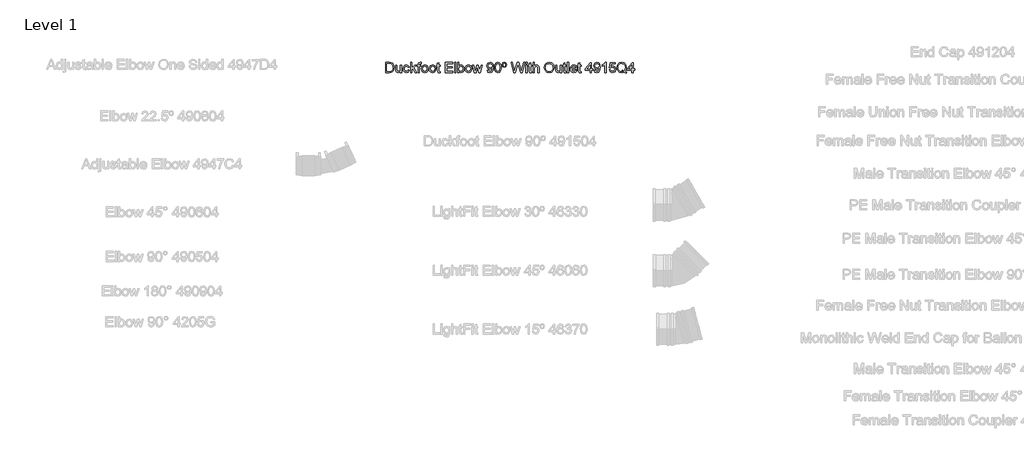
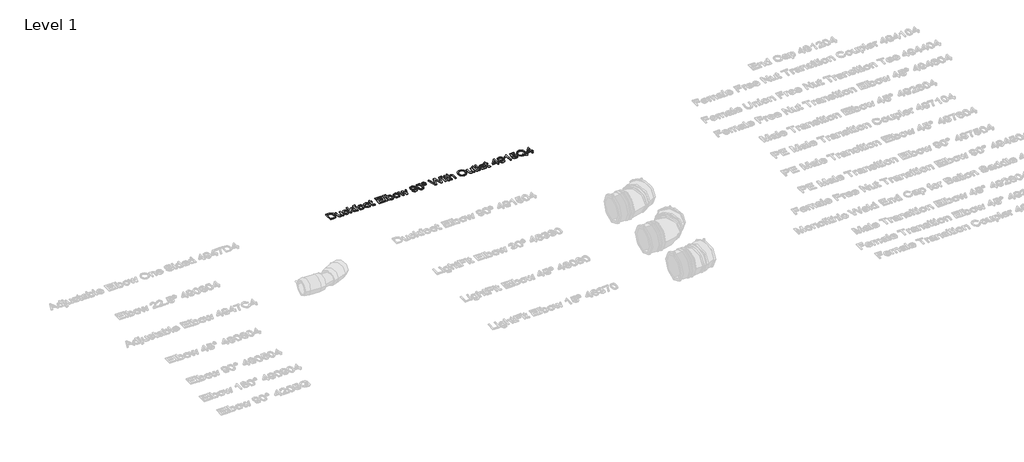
# One storey, part 20 of 41: 1 proxy.
"""IFC4 building model written with IfcOpenShell, lengths in millimetres."""

from ifc_helpers import new_model, si_unit, origin, origin_with_axes, place, context, project, spatial, polyline, outline, extrude, element, save

model = new_model("IFC4")

# Units and contexts
model_context = context("Model", 3, world=origin())
ifc_project = project(units=[si_unit("LENGTHUNIT", "METRE", prefix="MILLI")], contexts=[model_context])

# Site, building, storey
site = spatial("IfcSite", under=ifc_project)
building = spatial("IfcBuilding", under=site)
storey = spatial("IfcBuildingStorey", under=building, Name="Level 1", Elevation=0.0)

# Proxy
placement = place(None, origin())
element("IfcBuildingElementProxy", 1, Name="100 mm Arial", ObjectType="100 mm Arial", at=placement, inside=storey, context=model_context, shape_type="SweptSolid", body=[
    extrude(outline(polyline([(12963.4586957, 4990.1262933), (12963.4586957, 5049.2032164), (12983.8385034, 5049.2032164), (12994.3817727, 5048.3522548), (13003.064465, 5044.1262933), (13010.0596573, 5034.0301394), (13012.3817727, 5019.9820625), (13010.8096573, 5008.0613894), (13006.7711957, 4999.4580241), (13001.376965, 4994.099851), (12994.3168688, 4991.1359087), (12984.8192727, 4990.1262933), (12963.4586957, 4990.1262933)]), holes=[polyline([(12970.8433111, 4997.5109087), (12983.9106188, 4997.5109087), (12993.4154265, 4998.5782164), (12998.8961957, 5001.5926394), (13003.3889842, 5008.9267741), (13004.9971573, 5020.0974471), (13001.845715, 5034.0878318), (12994.1798496, 5040.6359087), (12983.7086957, 5041.818601), (12970.8433111, 5041.818601), (12970.8433111, 4997.5109087)])]), origin_with_axes(), (0.0, 0.0, 1.0), 5.0),
    extrude(outline(polyline([(13049.3048496, 4990.1262933), (13049.3048496, 4997.5830241), (13043.5211957, 4991.2981683), (13035.9779265, 4989.2032164), (13029.033215, 4990.6743702), (13024.2447534, 4994.3666779), (13022.0452342, 4999.8041779), (13021.6125419, 5006.6695625), (13021.6125419, 5033.5109087), (13028.9971573, 5033.5109087), (13028.9971573, 5010.1455241), (13029.4442727, 5002.6166779), (13032.3649457, 4998.1960048), (13037.8673496, 4996.5878318), (13044.033215, 4998.2320625), (13048.1077342, 5002.7104279), (13049.3048496, 5010.9387933), (13049.3048496, 5033.5109087), (13056.689465, 5033.5109087), (13056.689465, 4990.1262933), (13049.3048496, 4990.1262933)])), origin_with_axes(), (0.0, 0.0, 1.0), 5.0),
    extrude(outline(polyline([(13094.5356188, 5005.818601), (13101.9202342, 5004.8955241), (13095.9923496, 4993.3642741), (13084.2808111, 4989.2032164), (13076.4256429, 4990.6545385), (13070.283215, 4995.0085048), (13066.3186717, 5002.0740096), (13064.9971573, 5011.6599471), (13067.2543688, 5023.9267741), (13074.1341765, 5031.8089856), (13084.1798496, 5034.4339856), (13095.408215, 5030.8282164), (13100.9971573, 5020.5878318), (13093.6125419, 5019.6647548), (13090.1870611, 5025.1960048), (13084.2375419, 5027.0493702), (13075.6774457, 5023.4003318), (13072.3817727, 5011.8618702), (13075.6053304, 5000.2152356), (13084.0356188, 4996.5878318), (13090.9947534, 4998.8522548), (13094.5356188, 5005.818601)])), origin_with_axes(), (0.0, 0.0, 1.0), 5.0),
    extrude(outline(polyline([(13108.3817727, 4990.1262933), (13108.3817727, 5049.2032164), (13115.766388, 5049.2032164), (13115.766388, 5017.4580241), (13132.3240804, 5033.5109087), (13142.5356188, 5033.5109087), (13125.7760034, 5017.256101), (13143.4586957, 4990.1262933), (13134.8336957, 4990.1262933), (13120.4827342, 5012.1214856), (13115.766388, 5007.5493702), (13115.766388, 4990.1262933), (13108.3817727, 4990.1262933)])), origin_with_axes(), (0.0, 0.0, 1.0), 5.0),
    extrude(outline(polyline([(13151.766388, 4990.1262933), (13151.766388, 5026.1262933), (13145.3048496, 5026.1262933), (13145.3048496, 5033.5109087), (13151.766388, 5033.5109087), (13151.766388, 5037.881101), (13152.5452342, 5044.0397548), (13156.3240804, 5048.4387933), (13163.766388, 5050.1262933), (13170.501965, 5049.318601), (13169.4202342, 5042.3955241), (13165.1654265, 5042.7416779), (13160.5139842, 5041.5157164), (13159.1510034, 5036.943601), (13159.1510034, 5033.5109087), (13167.4586957, 5033.5109087), (13167.4586957, 5026.1262933), (13159.1510034, 5026.1262933), (13159.1510034, 4990.1262933), (13151.766388, 4990.1262933)])), origin_with_axes(), (0.0, 0.0, 1.0), 5.0),
    extrude(outline(polyline([(13172.0740804, 5011.818601), (13173.6714361, 5022.2789375), (13178.4635034, 5029.631101), (13191.4731188, 5034.4339856), (13199.2309313, 5032.9718462), (13205.4274457, 5028.5854279), (13209.4893448, 5021.6208846), (13210.8433111, 5012.4243702), (13208.4490804, 4999.2849471), (13201.4755227, 4991.849851), (13191.4731188, 4989.2032164), (13183.6215563, 4990.6599471), (13177.4322534, 4995.0301394), (13173.4136236, 5002.1407164), (13172.0740804, 5011.818601)]), holes=[polyline([(13179.4586957, 5011.8330241), (13182.876965, 5000.3883125), (13191.4731188, 4996.5878318), (13200.0404265, 5000.4099471), (13203.4586957, 5012.0637933), (13200.0187919, 5023.2488894), (13191.4731188, 5027.0493702), (13182.876965, 5023.2633125), (13179.4586957, 5011.8330241)])]), origin_with_axes(), (0.0, 0.0, 1.0), 5.0),
    extrude(outline(polyline([(13217.3048496, 5011.818601), (13218.9022054, 5022.2789375), (13223.6942727, 5029.631101), (13236.703888, 5034.4339856), (13244.4617005, 5032.9718462), (13250.658215, 5028.5854279), (13254.720114, 5021.6208846), (13256.0740804, 5012.4243702), (13253.6798496, 4999.2849471), (13246.7062919, 4991.849851), (13236.703888, 4989.2032164), (13228.8523255, 4990.6599471), (13222.6630227, 4995.0301394), (13218.6443929, 5002.1407164), (13217.3048496, 5011.818601)]), holes=[polyline([(13224.689465, 5011.8330241), (13228.1077342, 5000.3883125), (13236.703888, 4996.5878318), (13245.2711957, 5000.4099471), (13248.689465, 5012.0637933), (13245.2495611, 5023.2488894), (13236.703888, 5027.0493702), (13228.1077342, 5023.2633125), (13224.689465, 5011.8330241)])]), origin_with_axes(), (0.0, 0.0, 1.0), 5.0),
    extrude(outline(polyline([(13280.0740804, 4996.2849471), (13280.9971573, 4989.9099471), (13275.4731188, 4989.2032164), (13269.2856188, 4990.4291779), (13266.1990804, 4993.6455241), (13265.3048496, 5002.0253318), (13265.3048496, 5026.1262933), (13259.766388, 5026.1262933), (13259.766388, 5033.5109087), (13265.3048496, 5033.5109087), (13265.3048496, 5044.0541779), (13272.689465, 5048.3955241), (13272.689465, 5033.5109087), (13280.0740804, 5033.5109087), (13280.0740804, 5026.1262933), (13272.689465, 5026.1262933), (13272.689465, 5002.2416779), (13273.078888, 4998.4339856), (13274.3409073, 4997.0854279), (13276.8577342, 4996.5878318), (13280.0740804, 4996.2849471)])), origin_with_axes(), (0.0, 0.0, 1.0), 5.0),
    extrude(outline(polyline([(13311.4586957, 4990.1262933), (13311.4586957, 5049.2032164), (13353.9202342, 5049.2032164), (13353.9202342, 5041.818601), (13318.8433111, 5041.818601), (13318.8433111, 5024.2801394), (13352.0740804, 5024.2801394), (13352.0740804, 5016.8955241), (13318.8433111, 5016.8955241), (13318.8433111, 4997.5109087), (13354.8433111, 4997.5109087), (13354.8433111, 4990.1262933), (13311.4586957, 4990.1262933)])), origin_with_axes(), (0.0, 0.0, 1.0), 5.0),
    extrude(outline(polyline([(13364.9971573, 4990.1262933), (13364.9971573, 5049.2032164), (13372.3817727, 5049.2032164), (13372.3817727, 4990.1262933), (13364.9971573, 4990.1262933)])), origin_with_axes(), (0.0, 0.0, 1.0), 5.0),
    extrude(outline(polyline([(13390.8433111, 4990.1262933), (13383.4586957, 4990.1262933), (13383.4586957, 5049.2032164), (13390.8433111, 5049.2032164), (13390.8433111, 5027.2945625), (13396.0139842, 5032.6491298), (13402.439465, 5034.4339856), (13409.8385034, 5032.8258125), (13415.578888, 5028.3041779), (13419.1053304, 5021.2729279), (13420.3817727, 5012.4676394), (13419.0602582, 5002.6094664), (13415.095715, 4995.2753318), (13409.2778063, 4990.7212452), (13402.3961957, 4989.2032164), (13395.83009, 4991.1611491), (13390.8433111, 4997.0349471), (13390.8433111, 4990.1262933)]), holes=[polyline([(13390.8433111, 5012.1214856), (13392.8625419, 5001.7945625), (13401.7615804, 4996.5878318), (13409.6654265, 5000.4243702), (13412.9971573, 5011.8618702), (13409.8024457, 5023.3426394), (13402.078888, 5027.0493702), (13394.1750419, 5023.2128318), (13390.8433111, 5012.1214856)])]), origin_with_axes(), (0.0, 0.0, 1.0), 5.0),
    extrude(outline(polyline([(13426.8433111, 5011.818601), (13428.4406669, 5022.2789375), (13433.2327342, 5029.631101), (13446.2423496, 5034.4339856), (13454.0001621, 5032.9718462), (13460.1966765, 5028.5854279), (13464.2585755, 5021.6208846), (13465.6125419, 5012.4243702), (13463.2183111, 4999.2849471), (13456.2447534, 4991.849851), (13446.2423496, 4989.2032164), (13438.3907871, 4990.6599471), (13432.2014842, 4995.0301394), (13428.1828544, 5002.1407164), (13426.8433111, 5011.818601)]), holes=[polyline([(13434.2279265, 5011.8330241), (13437.6461957, 5000.3883125), (13446.2423496, 4996.5878318), (13454.8096573, 5000.4099471), (13458.2279265, 5012.0637933), (13454.7880227, 5023.2488894), (13446.2423496, 5027.0493702), (13437.6461957, 5023.2633125), (13434.2279265, 5011.8330241)])]), origin_with_axes(), (0.0, 0.0, 1.0), 5.0),
    extrude(outline(polyline([(13481.1173496, 4990.1262933), (13467.9202342, 5033.5109087), (13475.5933111, 5033.5109087), (13483.078888, 5008.1984087), (13485.314465, 4999.1551394), (13487.1461957, 5007.8666779), (13493.1029265, 5033.5109087), (13501.9010034, 5033.5109087), (13507.828888, 5007.9387933), (13509.4586957, 5000.0493702), (13511.7952342, 5008.3714856), (13519.2952342, 5033.5109087), (13526.9971573, 5033.5109087), (13513.6990804, 4990.1262933), (13504.7711957, 4990.1262933), (13499.1029265, 5015.568601), (13497.4586957, 5023.5012933), (13490.1461957, 4990.1262933), (13481.1173496, 4990.1262933)])), origin_with_axes(), (0.0, 0.0, 1.0), 5.0),
    extrude(outline(polyline([(13554.2279265, 5004.8955241), (13561.6125419, 5005.818601), (13564.9298496, 4998.7729279), (13571.2183111, 4996.5878318), (13577.1966765, 4997.9940818), (13581.2495611, 5001.7512933), (13583.6654265, 5008.1695625), (13584.7327342, 5016.7368702), (13578.783215, 5012.5830241), (13570.6846573, 5010.4339856), (13558.345715, 5015.6839856), (13553.3048496, 5029.5157164), (13558.5909073, 5043.7945625), (13571.8385034, 5049.2032164), (13582.360138, 5046.1166779), (13589.6005227, 5037.318601), (13592.0740804, 5020.7897548), (13589.6077342, 5002.8546587), (13582.2735996, 4992.693601), (13570.8721573, 4989.2032164), (13559.5211957, 4993.3210048), (13554.2279265, 5004.8955241)]), holes=[polyline([(13584.689465, 5029.6887933), (13581.501965, 5038.5445625), (13573.0356188, 5041.818601), (13564.1510034, 5038.2921587), (13560.689465, 5029.1551394), (13563.9635034, 5020.9700433), (13572.8336957, 5017.818601), (13581.3505227, 5020.9700433), (13584.689465, 5029.6887933)])]), origin_with_axes(), (0.0, 0.0, 1.0), 5.0),
    extrude(outline(polyline([(13598.5356188, 5019.1887933), (13600.7062919, 5036.1863894), (13607.1534073, 5045.9868702), (13617.9202342, 5049.2032164), (13626.5452342, 5047.2993702), (13632.501965, 5041.8113894), (13635.9635034, 5033.0710048), (13637.3048496, 5019.1887933), (13635.1558111, 5002.2633125), (13628.7303304, 4992.4411971), (13617.9202342, 4989.2032164), (13610.2471573, 4990.6094664), (13604.4202342, 4994.8282164), (13600.0067727, 5004.8198029), (13598.5356188, 5019.1887933)]), holes=[polyline([(13605.9202342, 5019.2032164), (13609.3817727, 5000.8642741), (13617.9202342, 4996.5878318), (13626.4586957, 5000.8786971), (13629.9202342, 5019.2032164), (13626.5740804, 5037.3330241), (13617.8336957, 5041.818601), (13609.4971573, 5037.8666779), (13605.9202342, 5019.2032164)])]), origin_with_axes(), (0.0, 0.0, 1.0), 5.0),
    extrude(outline(polyline([(13655.3048496, 5050.1262933), (13664.953888, 5046.0734087), (13668.689465, 5034.881101), (13664.9322534, 5023.7176394), (13655.3481188, 5019.6647548), (13645.6774457, 5023.6383125), (13641.9202342, 5034.7080241), (13645.6558111, 5046.0734087), (13655.3048496, 5050.1262933)]), holes=[polyline([(13655.3048496, 5044.5878318), (13650.9562919, 5042.3161971), (13649.3048496, 5034.8955241), (13650.985138, 5027.5397548), (13655.3048496, 5025.2032164), (13659.6389842, 5027.5397548), (13661.3048496, 5035.0974471), (13659.6245611, 5042.2729279), (13655.3048496, 5044.5878318)])]), origin_with_axes(), (0.0, 0.0, 1.0), 5.0),
    extrude(outline(polyline([(13710.6461957, 4990.1262933), (13694.5356188, 5049.2032164), (13702.1510034, 5049.2032164), (13711.4971573, 5010.3762933), (13714.3817727, 4998.3907164), (13717.4683111, 5008.9916779), (13729.1798496, 5049.2032164), (13740.1558111, 5049.2032164), (13748.6654265, 5020.0541779), (13754.9971573, 4998.3907164), (13757.7952342, 5010.0301394), (13767.2279265, 5049.2032164), (13774.8433111, 5049.2032164), (13758.7183111, 4990.1262933), (13750.828888, 4990.1262933), (13736.6654265, 5035.7032164), (13734.689465, 5042.0637933), (13732.4683111, 5034.4051394), (13719.5596573, 4990.1262933), (13710.6461957, 4990.1262933)])), origin_with_axes(), (0.0, 0.0, 1.0), 5.0),
    extrude(outline(polyline([(13781.3048496, 4990.1262933), (13781.3048496, 5033.5109087), (13788.689465, 5033.5109087), (13788.689465, 4990.1262933), (13781.3048496, 4990.1262933)])), origin_with_axes(), (0.0, 0.0, 1.0), 5.0),
    extrude(outline(polyline([(13781.3048496, 5041.818601), (13781.3048496, 5049.2032164), (13788.689465, 5049.2032164), (13788.689465, 5041.818601), (13781.3048496, 5041.818601)])), origin_with_axes(), (0.0, 0.0, 1.0), 5.0),
    extrude(outline(polyline([(13815.4586957, 4996.2849471), (13816.3817727, 4989.9099471), (13810.8577342, 4989.2032164), (13804.6702342, 4990.4291779), (13801.5836957, 4993.6455241), (13800.689465, 5002.0253318), (13800.689465, 5026.1262933), (13795.1510034, 5026.1262933), (13795.1510034, 5033.5109087), (13800.689465, 5033.5109087), (13800.689465, 5044.0541779), (13808.0740804, 5048.3955241), (13808.0740804, 5033.5109087), (13815.4586957, 5033.5109087), (13815.4586957, 5026.1262933), (13808.0740804, 5026.1262933), (13808.0740804, 5002.2416779), (13808.4635034, 4998.4339856), (13809.7255227, 4997.0854279), (13812.2423496, 4996.5878318), (13815.4586957, 4996.2849471)])), origin_with_axes(), (0.0, 0.0, 1.0), 5.0),
    extrude(outline(polyline([(13822.8433111, 4990.1262933), (13822.8433111, 5049.2032164), (13830.2279265, 5049.2032164), (13830.2279265, 5027.4820625), (13835.98634, 5032.6960048), (13843.078888, 5034.4339856), (13851.3721573, 5032.537351), (13856.4058111, 5027.2945625), (13857.9202342, 5017.5878318), (13857.9202342, 4990.1262933), (13850.5356188, 4990.1262933), (13850.5356188, 5016.8234087), (13848.1846573, 5024.6118702), (13841.5211957, 5027.0493702), (13835.470715, 5025.4051394), (13831.4322534, 5020.9484087), (13830.2279265, 5013.1743702), (13830.2279265, 4990.1262933), (13822.8433111, 4990.1262933)])), origin_with_axes(), (0.0, 0.0, 1.0), 5.0),
    extrude(outline(polyline([(13889.3048496, 5018.8859087), (13891.2735996, 5031.9496106), (13897.1798496, 5041.8330241), (13906.1978784, 5048.052976), (13917.501965, 5050.1262933), (13932.1990804, 5046.2320625), (13942.1798496, 5035.3714856), (13945.6125419, 5019.5637933), (13941.9995611, 5003.5397548), (13931.7591765, 4992.8378318), (13917.4586957, 4989.2032164), (13902.6029265, 4993.2200433), (13892.6798496, 5004.1815818), (13889.3048496, 5018.8859087)]), holes=[polyline([(13896.689465, 5018.8137933), (13898.1660275, 5009.5722068), (13902.595715, 5002.5301394), (13909.2537679, 4998.0734087), (13917.4154265, 4996.5878318), (13925.6960755, 4998.0878318), (13932.3649457, 5002.5878318), (13936.7621813, 5009.8462452), (13938.2279265, 5019.6214856), (13935.7183111, 5031.8089856), (13928.3841765, 5039.8786971), (13917.5452342, 5042.7416779), (13902.8481188, 5037.224851), (13898.2291284, 5029.8636731), (13896.689465, 5018.8137933)])]), origin_with_axes(), (0.0, 0.0, 1.0), 5.0),
    extrude(outline(polyline([(13982.5356188, 4990.1262933), (13982.5356188, 4997.5830241), (13976.751965, 4991.2981683), (13969.2086957, 4989.2032164), (13962.2639842, 4990.6743702), (13957.4755227, 4994.3666779), (13955.2760034, 4999.8041779), (13954.8433111, 5006.6695625), (13954.8433111, 5033.5109087), (13962.2279265, 5033.5109087), (13962.2279265, 5010.1455241), (13962.6750419, 5002.6166779), (13965.595715, 4998.1960048), (13971.0981188, 4996.5878318), (13977.2639842, 4998.2320625), (13981.3385034, 5002.7104279), (13982.5356188, 5010.9387933), (13982.5356188, 5033.5109087), (13989.9202342, 5033.5109087), (13989.9202342, 4990.1262933), (13982.5356188, 4990.1262933)])), origin_with_axes(), (0.0, 0.0, 1.0), 5.0),
    extrude(outline(polyline([(14015.766388, 4996.2849471), (14016.689465, 4989.9099471), (14011.1654265, 4989.2032164), (14004.9779265, 4990.4291779), (14001.891388, 4993.6455241), (14000.9971573, 5002.0253318), (14000.9971573, 5026.1262933), (13995.4586957, 5026.1262933), (13995.4586957, 5033.5109087), (14000.9971573, 5033.5109087), (14000.9971573, 5044.0541779), (14008.3817727, 5048.3955241), (14008.3817727, 5033.5109087), (14015.766388, 5033.5109087), (14015.766388, 5026.1262933), (14008.3817727, 5026.1262933), (14008.3817727, 5002.2416779), (14008.7711957, 4998.4339856), (14010.033215, 4997.0854279), (14012.5500419, 4996.5878318), (14015.766388, 4996.2849471)])), origin_with_axes(), (0.0, 0.0, 1.0), 5.0),
    extrude(outline(polyline([(14023.1510034, 4990.1262933), (14023.1510034, 5049.2032164), (14030.5356188, 5049.2032164), (14030.5356188, 4990.1262933), (14023.1510034, 4990.1262933)])), origin_with_axes(), (0.0, 0.0, 1.0), 5.0),
    extrude(outline(polyline([(14071.9875419, 5003.0493702), (14079.2279265, 5002.1262933), (14072.4562919, 4992.5926394), (14059.8433111, 4989.2032164), (14051.1786477, 4990.6653558), (14044.5115804, 4995.0517741), (14040.2603784, 5002.0776154), (14038.8433111, 5011.4580241), (14040.2748015, 5021.1539375), (14044.5692727, 5028.4051394), (14051.1461957, 5032.9267741), (14059.4250419, 5034.4339856), (14067.4460755, 5032.9303798), (14073.8553304, 5028.4195625), (14078.0578544, 5021.1827837), (14079.4586957, 5011.5012933), (14079.4154265, 5009.5109087), (14046.2279265, 5009.5109087), (14050.4755227, 4999.9195625), (14059.9875419, 4996.5878318), (14067.2279265, 4998.131101), (14071.9875419, 5003.0493702)]), holes=[polyline([(14046.2279265, 5016.8955241), (14072.0740804, 5016.8955241), (14069.1173496, 5023.5878318), (14059.3961957, 5027.0493702), (14050.3024457, 5024.287351), (14046.2279265, 5016.8955241)])]), origin_with_axes(), (0.0, 0.0, 1.0), 5.0),
    extrude(outline(polyline([(14102.5356188, 4996.2849471), (14103.4586957, 4989.9099471), (14097.9346573, 4989.2032164), (14091.7471573, 4990.4291779), (14088.6606188, 4993.6455241), (14087.766388, 5002.0253318), (14087.766388, 5026.1262933), (14082.2279265, 5026.1262933), (14082.2279265, 5033.5109087), (14087.766388, 5033.5109087), (14087.766388, 5044.0541779), (14095.1510034, 5048.3955241), (14095.1510034, 5033.5109087), (14102.5356188, 5033.5109087), (14102.5356188, 5026.1262933), (14095.1510034, 5026.1262933), (14095.1510034, 5002.2416779), (14095.5404265, 4998.4339856), (14096.8024457, 4997.0854279), (14099.3192727, 4996.5878318), (14102.5356188, 4996.2849471)])), origin_with_axes(), (0.0, 0.0, 1.0), 5.0),
    extrude(outline(polyline([(14155.1510034, 4990.1262933), (14155.1510034, 5003.9724471), (14128.3817727, 5003.9724471), (14128.3817727, 5011.3570625), (14156.9971573, 5048.2801394), (14162.5356188, 5048.2801394), (14162.5356188, 5011.3570625), (14169.9202342, 5011.3570625), (14169.9202342, 5003.9724471), (14162.5356188, 5003.9724471), (14162.5356188, 4990.1262933), (14155.1510034, 4990.1262933)]), holes=[polyline([(14155.1510034, 5011.3570625), (14155.1510034, 5034.1743702), (14137.4683111, 5011.3570625), (14155.1510034, 5011.3570625)])]), origin_with_axes(), (0.0, 0.0, 1.0), 5.0),
    extrude(outline(polyline([(14177.3048496, 5004.8955241), (14184.689465, 5005.818601), (14188.0067727, 4998.7729279), (14194.2952342, 4996.5878318), (14200.2735996, 4997.9940818), (14204.3264842, 5001.7512933), (14206.7423496, 5008.1695625), (14207.8096573, 5016.7368702), (14201.860138, 5012.5830241), (14193.7615804, 5010.4339856), (14181.422638, 5015.6839856), (14176.3817727, 5029.5157164), (14181.6678304, 5043.7945625), (14194.9154265, 5049.2032164), (14205.4370611, 5046.1166779), (14212.6774457, 5037.318601), (14215.1510034, 5020.7897548), (14212.6846573, 5002.8546587), (14205.3505227, 4992.693601), (14193.9490804, 4989.2032164), (14182.5981188, 4993.3210048), (14177.3048496, 5004.8955241)]), holes=[polyline([(14207.766388, 5029.6887933), (14204.578888, 5038.5445625), (14196.1125419, 5041.818601), (14187.2279265, 5038.2921587), (14183.766388, 5029.1551394), (14187.0404265, 5020.9700433), (14195.9106188, 5017.818601), (14204.4274457, 5020.9700433), (14207.766388, 5029.6887933)])]), origin_with_axes(), (0.0, 0.0, 1.0), 5.0),
    extrude(outline(polyline([(14249.3048496, 4990.1262933), (14241.9202342, 4990.1262933), (14241.9202342, 5036.1647548), (14234.9250419, 5031.1815818), (14227.1510034, 5027.4532164), (14227.1510034, 5034.4339856), (14237.9755227, 5041.3426394), (14244.5452342, 5049.2032164), (14249.3048496, 5049.2032164), (14249.3048496, 4990.1262933)])), origin_with_axes(), (0.0, 0.0, 1.0), 5.0),
    extrude(outline(polyline([(14266.8433111, 5005.818601), (14274.2279265, 5006.7416779), (14277.9490804, 4999.1335048), (14285.6654265, 4996.5878318), (14294.9250419, 5000.1286971), (14298.2279265, 5009.5253318), (14295.1341765, 5018.2945625), (14285.7808111, 5021.5109087), (14279.297638, 5020.2272548), (14275.1510034, 5016.8955241), (14267.766388, 5017.818601), (14274.2279265, 5048.2801394), (14302.8433111, 5048.2801394), (14302.8433111, 5040.8955241), (14280.1990804, 5040.8955241), (14277.0404265, 5024.6262933), (14287.8433111, 5028.8955241), (14300.470715, 5023.6022548), (14305.6125419, 5009.9868702), (14300.9827342, 4996.2849471), (14294.3336957, 4990.9736491), (14285.6365804, 4989.2032164), (14272.6053304, 4993.7536971), (14266.8433111, 5005.818601)])), origin_with_axes(), (0.0, 0.0, 1.0), 5.0),
    extrude(outline(polyline([(14359.2231188, 4997.2080241), (14368.3817727, 4991.0493702), (14366.391388, 4985.6407164), (14354.2327342, 4992.5493702), (14339.8817727, 4989.2032164), (14325.501965, 4993.0613894), (14315.5572534, 5003.9075433), (14312.0740804, 5019.6503318), (14315.5500419, 5035.5085048), (14325.4442727, 5046.3907164), (14339.8096573, 5050.1262933), (14354.2687919, 5046.3041779), (14364.0836957, 5035.6022548), (14367.4586957, 5020.0830241), (14365.4106188, 5007.1743702), (14359.2231188, 4997.2080241)]), holes=[polyline([(14341.9154265, 5007.0301394), (14353.1365804, 5001.4195625), (14358.3397054, 5009.0349471), (14360.0740804, 5019.7080241), (14357.6221573, 5031.8306202), (14350.4466765, 5039.8786971), (14339.8529265, 5042.7416779), (14331.8048496, 5041.2939616), (14325.2567727, 5036.9508125), (14320.908215, 5029.7338654), (14319.4586957, 5019.6647548), (14320.891989, 5009.8119904), (14325.1918688, 5002.5517741), (14331.720114, 4998.0788173), (14339.8385034, 4996.5878318), (14347.7856188, 4998.1022548), (14340.0115804, 5001.3762933), (14341.9154265, 5007.0301394)])]), origin_with_axes(), (0.0, 0.0, 1.0), 5.0),
    extrude(outline(polyline([(14399.766388, 4990.1262933), (14399.766388, 5003.9724471), (14372.9971573, 5003.9724471), (14372.9971573, 5011.3570625), (14401.6125419, 5048.2801394), (14407.1510034, 5048.2801394), (14407.1510034, 5011.3570625), (14414.5356188, 5011.3570625), (14414.5356188, 5003.9724471), (14407.1510034, 5003.9724471), (14407.1510034, 4990.1262933), (14399.766388, 4990.1262933)]), holes=[polyline([(14399.766388, 5011.3570625), (14399.766388, 5034.1743702), (14382.0836957, 5011.3570625), (14399.766388, 5011.3570625)])]), origin_with_axes(), (0.0, 0.0, 1.0), 5.0),
])

save(model, "model.ifc")
